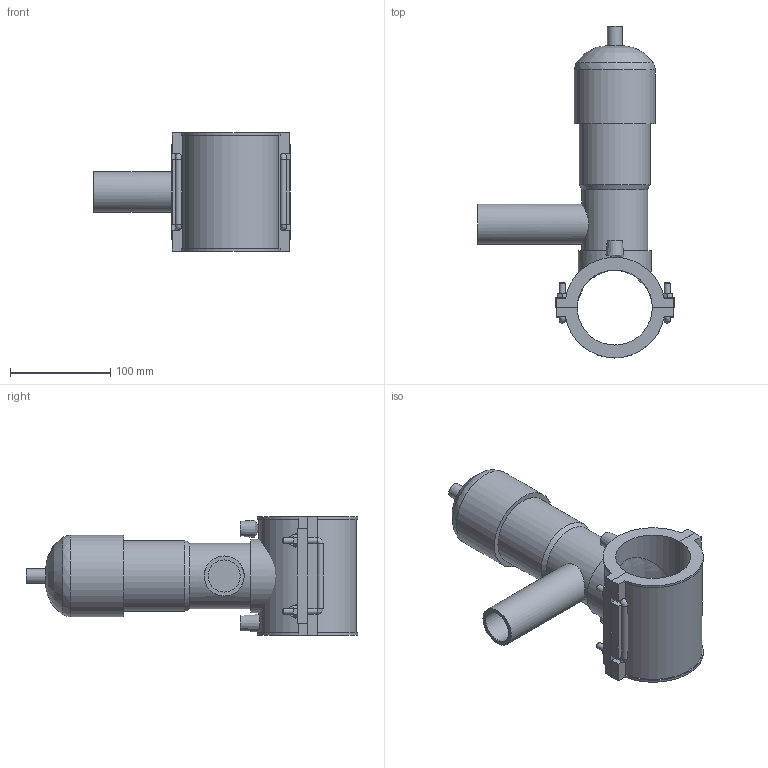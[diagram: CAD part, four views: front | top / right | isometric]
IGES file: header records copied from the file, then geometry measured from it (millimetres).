
Global section: file name: 495404075040.ipt; native system: Autodesk Inventor 2015; preprocessor: unknown; author: KIM; date: 20171106.094239; units: millimetre
Bounding box: 196.5 x 331.71 x 118 mm (x, y, z)
Volume: 1381186 mm3; surface area: 186805.7 mm2
Topology: 3 solids, 3 shells, 141 faces, 352 edges, 222 vertices
Faces by surface type: plane 89, cylinder 25, revolution 12, bspline 8, cone 7
Full cylindrical faces by diameter (mm): 4 x2, 6 x10, 14.64 x1, 40 x1, 65.88 x1, 70.76 x1, 73.2 x1, 81.333 x1
